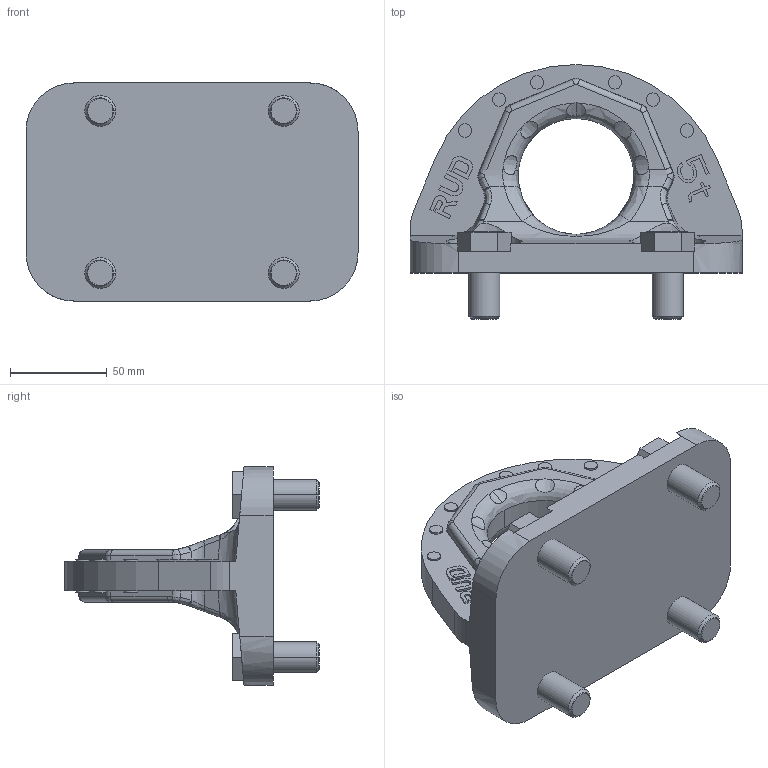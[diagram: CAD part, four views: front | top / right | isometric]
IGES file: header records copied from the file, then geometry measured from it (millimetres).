
Start section:  PTC IGES file: B-ABA_5t_7906268.igs
Global section: file name: B-ABA_5t_7906268.igs; native system: Pro/ENGINEER by Parametric Technology Corporation; preprocessor: 2010140; author: Marcel.Bux; organization: Unknown; date: 20160205.131002; units: millimetre
Bounding box: 172 x 132 x 113 mm (x, y, z)
Volume: 544791.6 mm3; surface area: 93598.2 mm2
Topology: 1 solids, 5 shells, 1403 faces, 3927 edges, 2660 vertices
Faces by surface type: bspline 1279, revolution 124
